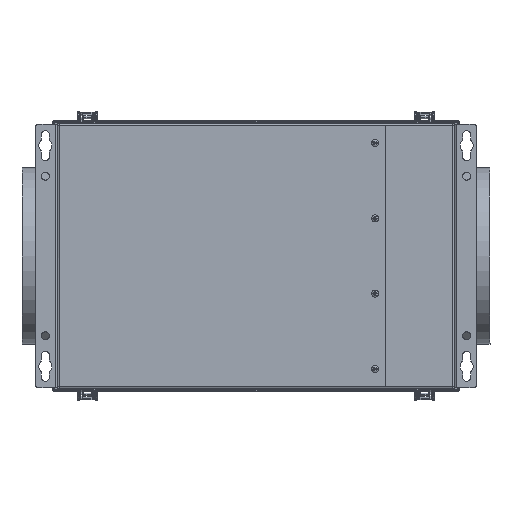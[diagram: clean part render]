
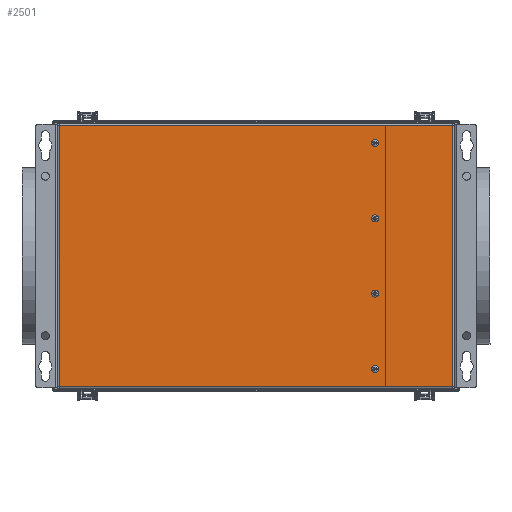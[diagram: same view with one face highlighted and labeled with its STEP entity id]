
A CAD part, front view. The second image highlights one B-rep face of the part: STEP entity #2501.
In plain terms, the highlighted planar face has unit normal (0, -1, 0).
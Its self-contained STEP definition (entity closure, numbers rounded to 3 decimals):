
#261 = ORIENTED_EDGE ( 'NONE', *, *, #22960, .F. ) ;
#701 = ORIENTED_EDGE ( 'NONE', *, *, #11861, .F. ) ;
#760 = VERTEX_POINT ( 'NONE', #3107 ) ;
#782 = CARTESIAN_POINT ( 'NONE',  ( 135., 0., 42.667 ) ) ;
#909 = EDGE_CURVE ( 'NONE', #5164, #24874, #28340, .T. ) ;
#1190 = DIRECTION ( 'NONE',  ( 0., 0., 1. ) ) ;
#1217 = AXIS2_PLACEMENT_3D ( 'NONE', #3828, #20773, #6250 ) ;
#1278 = DIRECTION ( 'NONE',  ( 0., -1., 0. ) ) ;
#1525 = ORIENTED_EDGE ( 'NONE', *, *, #6717, .F. ) ;
#1750 = CARTESIAN_POINT ( 'NONE',  ( -223., 0., 148. ) ) ;
#1903 = EDGE_CURVE ( 'NONE', #10951, #16733, #17615, .T. ) ;
#2293 = CARTESIAN_POINT ( 'NONE',  ( 135., 0., 128. ) ) ;
#2311 = CARTESIAN_POINT ( 'NONE',  ( 135., 0., 40.567 ) ) ;
#2501 = ADVANCED_FACE ( 'NONE', ( #22656, #28352, #21565, #15089, #8670 ), #3551, .F. ) ;
#3008 = CARTESIAN_POINT ( 'NONE',  ( 135., 0., 128. ) ) ;
#3012 = LINE ( 'NONE', #11294, #8700 ) ;
#3107 = CARTESIAN_POINT ( 'NONE',  ( 135., 0., -40.567 ) ) ;
#3249 = DIRECTION ( 'NONE',  ( 0., 0., -1. ) ) ;
#3551 = PLANE ( 'NONE',  #15544 ) ;
#3828 = CARTESIAN_POINT ( 'NONE',  ( 135., 0., -42.667 ) ) ;
#4075 = VECTOR ( 'NONE', #10432, 1000. ) ;
#4126 = EDGE_CURVE ( 'NONE', #15154, #26020, #18414, .T. ) ;
#4178 = DIRECTION ( 'NONE',  ( 0., -1., 0. ) ) ;
#4369 = AXIS2_PLACEMENT_3D ( 'NONE', #18651, #4178, #21109 ) ;
#4562 = CARTESIAN_POINT ( 'NONE',  ( 135., 0., -130.1 ) ) ;
#4570 = EDGE_LOOP ( 'NONE', ( #29884, #28628, #11196, #25296 ) ) ;
#5164 = VERTEX_POINT ( 'NONE', #1750 ) ;
#5359 = CARTESIAN_POINT ( 'NONE',  ( 225., 0., 148. ) ) ;
#5449 = DIRECTION ( 'NONE',  ( 0., 0., -1. ) ) ;
#5469 = EDGE_LOOP ( 'NONE', ( #701, #28287 ) ) ;
#5875 = AXIS2_PLACEMENT_3D ( 'NONE', #18002, #29104, #20366 ) ;
#6199 = CIRCLE ( 'NONE', #1217, 2.1 ) ;
#6250 = DIRECTION ( 'NONE',  ( 0., 0., -1. ) ) ;
#6717 = EDGE_CURVE ( 'NONE', #26020, #15154, #9365, .T. ) ;
#7351 = CARTESIAN_POINT ( 'NONE',  ( 223., 0., -148. ) ) ;
#8029 = EDGE_CURVE ( 'NONE', #28166, #19775, #18750, .T. ) ;
#8452 = DIRECTION ( 'NONE',  ( 0., 0., -1. ) ) ;
#8670 = FACE_BOUND ( 'NONE', #11922, .T. ) ;
#8673 = CIRCLE ( 'NONE', #4369, 2.1 ) ;
#8700 = VECTOR ( 'NONE', #25840, 1000. ) ;
#8914 = ORIENTED_EDGE ( 'NONE', *, *, #25238, .F. ) ;
#9305 = EDGE_CURVE ( 'NONE', #760, #16900, #6199, .T. ) ;
#9365 = CIRCLE ( 'NONE', #27305, 2.1 ) ;
#9772 = EDGE_LOOP ( 'NONE', ( #22227, #261 ) ) ;
#9939 = EDGE_CURVE ( 'NONE', #24874, #10693, #25866, .T. ) ;
#10432 = DIRECTION ( 'NONE',  ( 0., 0., -1. ) ) ;
#10693 = VERTEX_POINT ( 'NONE', #7351 ) ;
#10843 = DIRECTION ( 'NONE',  ( 0., 1., 0. ) ) ;
#10951 = VERTEX_POINT ( 'NONE', #28213 ) ;
#11017 = CARTESIAN_POINT ( 'NONE',  ( 135., 0., 44.767 ) ) ;
#11090 = CARTESIAN_POINT ( 'NONE',  ( 135., 0., -128. ) ) ;
#11196 = ORIENTED_EDGE ( 'NONE', *, *, #31085, .T. ) ;
#11290 = ORIENTED_EDGE ( 'NONE', *, *, #4126, .F. ) ;
#11294 = CARTESIAN_POINT ( 'NONE',  ( 223., 0., -148. ) ) ;
#11383 = LINE ( 'NONE', #5359, #17045 ) ;
#11861 = EDGE_CURVE ( 'NONE', #16900, #760, #8673, .T. ) ;
#11922 = EDGE_LOOP ( 'NONE', ( #1525, #11290 ) ) ;
#12260 = ORIENTED_EDGE ( 'NONE', *, *, #1903, .F. ) ;
#12593 = DIRECTION ( 'NONE',  ( -1., 0., 0. ) ) ;
#12913 = VECTOR ( 'NONE', #16336, 1000. ) ;
#13266 = CARTESIAN_POINT ( 'NONE',  ( -225., 0., 150. ) ) ;
#13281 = CARTESIAN_POINT ( 'NONE',  ( -223., 0., -148. ) ) ;
#13775 = CARTESIAN_POINT ( 'NONE',  ( 135., 0., -44.767 ) ) ;
#13908 = CARTESIAN_POINT ( 'NONE',  ( -225., 0., -148. ) ) ;
#15089 = FACE_BOUND ( 'NONE', #5469, .T. ) ;
#15154 = VERTEX_POINT ( 'NONE', #23321 ) ;
#15394 = CARTESIAN_POINT ( 'NONE',  ( -223., 0., 148. ) ) ;
#15544 = AXIS2_PLACEMENT_3D ( 'NONE', #13266, #10843, #1190 ) ;
#15784 = CARTESIAN_POINT ( 'NONE',  ( 135., 0., 42.667 ) ) ;
#16311 = AXIS2_PLACEMENT_3D ( 'NONE', #3008, #19966, #5449 ) ;
#16336 = DIRECTION ( 'NONE',  ( 1., 0., 0. ) ) ;
#16733 = VERTEX_POINT ( 'NONE', #23942 ) ;
#16900 = VERTEX_POINT ( 'NONE', #13775 ) ;
#17045 = VECTOR ( 'NONE', #12593, 1000. ) ;
#17615 = CIRCLE ( 'NONE', #25510, 2.1 ) ;
#17737 = DIRECTION ( 'NONE',  ( 0., -1., 0. ) ) ;
#18002 = CARTESIAN_POINT ( 'NONE',  ( 135., 0., -128. ) ) ;
#18242 = DIRECTION ( 'NONE',  ( 0., 0., -1. ) ) ;
#18414 = CIRCLE ( 'NONE', #5875, 2.1 ) ;
#18651 = CARTESIAN_POINT ( 'NONE',  ( 135., 0., -42.667 ) ) ;
#18750 = CIRCLE ( 'NONE', #24977, 2.1 ) ;
#19775 = VERTEX_POINT ( 'NONE', #11017 ) ;
#19966 = DIRECTION ( 'NONE',  ( 0., -1., 0. ) ) ;
#20366 = DIRECTION ( 'NONE',  ( 0., 0., -1. ) ) ;
#20773 = DIRECTION ( 'NONE',  ( 0., -1., 0. ) ) ;
#20800 = CARTESIAN_POINT ( 'NONE',  ( 223., 0., 148. ) ) ;
#21109 = DIRECTION ( 'NONE',  ( 0., 0., -1. ) ) ;
#21565 = FACE_OUTER_BOUND ( 'NONE', #4570, .T. ) ;
#21864 = EDGE_LOOP ( 'NONE', ( #8914, #12260 ) ) ;
#22227 = ORIENTED_EDGE ( 'NONE', *, *, #8029, .F. ) ;
#22656 = FACE_BOUND ( 'NONE', #9772, .T. ) ;
#22960 = EDGE_CURVE ( 'NONE', #19775, #28166, #26325, .T. ) ;
#23321 = CARTESIAN_POINT ( 'NONE',  ( 135., 0., -125.9 ) ) ;
#23540 = CIRCLE ( 'NONE', #16311, 2.1 ) ;
#23942 = CARTESIAN_POINT ( 'NONE',  ( 135., 0., 125.9 ) ) ;
#24012 = DIRECTION ( 'NONE',  ( 0., 0., -1. ) ) ;
#24874 = VERTEX_POINT ( 'NONE', #13281 ) ;
#24977 = AXIS2_PLACEMENT_3D ( 'NONE', #15784, #1278, #18242 ) ;
#25237 = EDGE_CURVE ( 'NONE', #29432, #5164, #11383, .T. ) ;
#25238 = EDGE_CURVE ( 'NONE', #16733, #10951, #23540, .T. ) ;
#25296 = ORIENTED_EDGE ( 'NONE', *, *, #25237, .T. ) ;
#25510 = AXIS2_PLACEMENT_3D ( 'NONE', #2293, #28893, #24012 ) ;
#25518 = DIRECTION ( 'NONE',  ( 0., -1., 0. ) ) ;
#25840 = DIRECTION ( 'NONE',  ( 0., 0., 1. ) ) ;
#25866 = LINE ( 'NONE', #13908, #12913 ) ;
#26020 = VERTEX_POINT ( 'NONE', #4562 ) ;
#26325 = CIRCLE ( 'NONE', #28887, 2.1 ) ;
#27305 = AXIS2_PLACEMENT_3D ( 'NONE', #11090, #25518, #8452 ) ;
#28166 = VERTEX_POINT ( 'NONE', #2311 ) ;
#28213 = CARTESIAN_POINT ( 'NONE',  ( 135., 0., 130.1 ) ) ;
#28287 = ORIENTED_EDGE ( 'NONE', *, *, #9305, .F. ) ;
#28340 = LINE ( 'NONE', #15394, #4075 ) ;
#28352 = FACE_BOUND ( 'NONE', #21864, .T. ) ;
#28628 = ORIENTED_EDGE ( 'NONE', *, *, #9939, .T. ) ;
#28887 = AXIS2_PLACEMENT_3D ( 'NONE', #782, #17737, #3249 ) ;
#28893 = DIRECTION ( 'NONE',  ( 0., -1., 0. ) ) ;
#29104 = DIRECTION ( 'NONE',  ( 0., -1., 0. ) ) ;
#29432 = VERTEX_POINT ( 'NONE', #20800 ) ;
#29884 = ORIENTED_EDGE ( 'NONE', *, *, #909, .T. ) ;
#31085 = EDGE_CURVE ( 'NONE', #10693, #29432, #3012, .T. ) ;
